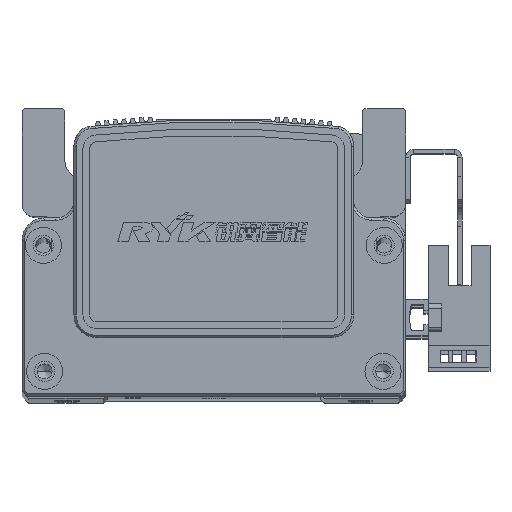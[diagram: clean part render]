
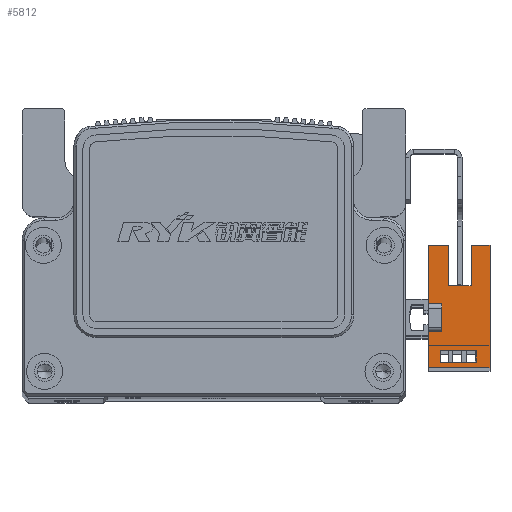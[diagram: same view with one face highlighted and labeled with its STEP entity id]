
A CAD part, top view. The second image highlights one B-rep face of the part: STEP entity #5812.
In plain terms, the highlighted planar face has unit normal (0, 0, 1) as drawn and (1, 0, 0) by its records, which use the part's own axes.
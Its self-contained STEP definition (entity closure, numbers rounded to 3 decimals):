
#5812 = ADVANCED_FACE ( 'NONE', ( #44824, #44791 ), #16003, .T. ) ;
#7566 = CARTESIAN_POINT ( 'NONE',  ( 3.2, 16.1, -10.7 ) ) ;
#7572 = DIRECTION ( 'NONE',  ( 0., 0., 1. ) ) ;
#7694 = DIRECTION ( 'NONE',  ( 0., 1., 0. ) ) ;
#7706 = DIRECTION ( 'NONE',  ( 0., 1., 0. ) ) ;
#7716 = CARTESIAN_POINT ( 'NONE',  ( 3.2, 16.1, 3. ) ) ;
#7731 = CARTESIAN_POINT ( 'NONE',  ( 3.2, 16.1, -7.7 ) ) ;
#7765 = CARTESIAN_POINT ( 'NONE',  ( 3.2, 16.1, 3. ) ) ;
#7781 = DIRECTION ( 'NONE',  ( 0., 0., 1. ) ) ;
#7782 = DIRECTION ( 'NONE',  ( 0., 1., 0. ) ) ;
#7783 = CARTESIAN_POINT ( 'NONE',  ( 3.2, 7.1, -6.5 ) ) ;
#7792 = CARTESIAN_POINT ( 'NONE',  ( 3.2, 16.1, -10.7 ) ) ;
#7798 = DIRECTION ( 'NONE',  ( 0., 1., 0. ) ) ;
#7804 = DIRECTION ( 'NONE',  ( 0., -1., 0. ) ) ;
#7809 = CARTESIAN_POINT ( 'NONE',  ( 3.2, 16.1, 0.3 ) ) ;
#7814 = CARTESIAN_POINT ( 'NONE',  ( 3.2, -9.83, -10.7 ) ) ;
#7828 = CARTESIAN_POINT ( 'NONE',  ( 3.2, 25.1, -6.5 ) ) ;
#7831 = DIRECTION ( 'NONE',  ( 0., -1., 0. ) ) ;
#7833 = DIRECTION ( 'NONE',  ( 0., 0., -1. ) ) ;
#7849 = CARTESIAN_POINT ( 'NONE',  ( 3.2, -7.33, -10.7 ) ) ;
#7851 = DIRECTION ( 'NONE',  ( 0., 0., 1. ) ) ;
#7866 = DIRECTION ( 'NONE',  ( 0., 1., 0. ) ) ;
#7873 = CARTESIAN_POINT ( 'NONE',  ( 3.2, -11.1, 3. ) ) ;
#7874 = DIRECTION ( 'NONE',  ( 0., 0., 1. ) ) ;
#7893 = CARTESIAN_POINT ( 'NONE',  ( 3.2, 0., 0. ) ) ;
#7900 = DIRECTION ( 'NONE',  ( 0., 1., 0. ) ) ;
#7903 = CARTESIAN_POINT ( 'NONE',  ( 3.2, 25.1, -1.5 ) ) ;
#7912 = DIRECTION ( 'NONE',  ( 0., 0., 1. ) ) ;
#7932 = CARTESIAN_POINT ( 'NONE',  ( 3.2, 16.1, -10.7 ) ) ;
#10151 = DIRECTION ( 'NONE',  ( 0., 0., 1. ) ) ;
#10153 = CARTESIAN_POINT ( 'NONE',  ( 3.2, -3.1, 3. ) ) ;
#10168 = CARTESIAN_POINT ( 'NONE',  ( 3.2, 3.1, 3. ) ) ;
#10182 = DIRECTION ( 'NONE',  ( 0., 0., -1. ) ) ;
#10513 = CARTESIAN_POINT ( 'NONE',  ( 3.2, -3.1, 3. ) ) ;
#10539 = CARTESIAN_POINT ( 'NONE',  ( 3.2, 3.1, 3. ) ) ;
#10578 = CARTESIAN_POINT ( 'NONE',  ( 3.2, 16.1, -6.5 ) ) ;
#10580 = CARTESIAN_POINT ( 'NONE',  ( 3.2, -11.1, 3. ) ) ;
#10588 = CARTESIAN_POINT ( 'NONE',  ( 3.2, 16.1, 3. ) ) ;
#10594 = CARTESIAN_POINT ( 'NONE',  ( 3.2, 16.1, -10.7 ) ) ;
#10643 = CARTESIAN_POINT ( 'NONE',  ( 3.2, 16.1, -1.5 ) ) ;
#10648 = CARTESIAN_POINT ( 'NONE',  ( 3.2, -11.1, -10.7 ) ) ;
#10667 = CARTESIAN_POINT ( 'NONE',  ( 3.2, -9.83, 0.3 ) ) ;
#10671 = CARTESIAN_POINT ( 'NONE',  ( 3.2, -7.33, -7.7 ) ) ;
#10689 = CARTESIAN_POINT ( 'NONE',  ( 3.2, 7.1, -1.5 ) ) ;
#10716 = CARTESIAN_POINT ( 'NONE',  ( 3.2, -7.33, 0.3 ) ) ;
#10720 = CARTESIAN_POINT ( 'NONE',  ( 3.2, 3.1, 0. ) ) ;
#10726 = CARTESIAN_POINT ( 'NONE',  ( 3.2, -9.83, -7.7 ) ) ;
#10730 = CARTESIAN_POINT ( 'NONE',  ( 3.2, -3.1, 0. ) ) ;
#10759 = CARTESIAN_POINT ( 'NONE',  ( 3.2, 7.1, -6.5 ) ) ;
#14133 = EDGE_CURVE ( 'NONE', #37914, #37710, #24729, .T. ) ;
#14134 = EDGE_CURVE ( 'NONE', #37706, #37928, #24770, .T. ) ;
#14176 = EDGE_CURVE ( 'NONE', #37793, #37771, #24817, .T. ) ;
#14206 = EDGE_CURVE ( 'NONE', #37839, #37706, #24856, .T. ) ;
#14221 = EDGE_CURVE ( 'NONE', #37951, #37949, #24892, .T. ) ;
#14243 = EDGE_CURVE ( 'NONE', #37710, #37875, #24933, .T. ) ;
#14253 = EDGE_CURVE ( 'NONE', #38013, #37884, #24941, .T. ) ;
#14256 = EDGE_CURVE ( 'NONE', #37895, #37793, #24950, .T. ) ;
#14257 = EDGE_CURVE ( 'NONE', #37999, #37931, #24952, .T. ) ;
#14262 = EDGE_CURVE ( 'NONE', #37931, #37951, #25003, .T. ) ;
#14264 = EDGE_CURVE ( 'NONE', #37771, #38013, #25018, .T. ) ;
#14280 = EDGE_CURVE ( 'NONE', #37949, #37999, #24988, .T. ) ;
#14297 = EDGE_CURVE ( 'NONE', #37928, #37914, #25055, .T. ) ;
#14298 = EDGE_CURVE ( 'NONE', #37884, #37869, #25090, .T. ) ;
#14301 = EDGE_CURVE ( 'NONE', #37895, #37839, #25059, .T. ) ;
#14312 = EDGE_CURVE ( 'NONE', #37869, #37875, #25061, .T. ) ;
#16003 = PLANE ( 'NONE',  #22616 ) ;
#16004 = DIRECTION ( 'NONE',  ( 1., 0., 0. ) ) ;
#16005 = DIRECTION ( 'NONE',  ( 0., 1., 0. ) ) ;
#16048 = CARTESIAN_POINT ( 'NONE',  ( 3.2, 16.1, -10.7 ) ) ;
#22616 = AXIS2_PLACEMENT_3D ( 'NONE', #16048, #16004, #16005 ) ;
#24729 = LINE ( 'NONE', #10168, #24753 ) ;
#24753 = VECTOR ( 'NONE', #10151, 1000. ) ;
#24755 = VECTOR ( 'NONE', #10182, 1000. ) ;
#24770 = LINE ( 'NONE', #10153, #24755 ) ;
#24789 = VECTOR ( 'NONE', #7572, 1000. ) ;
#24817 = LINE ( 'NONE', #7566, #24789 ) ;
#24856 = LINE ( 'NONE', #7716, #24900 ) ;
#24892 = LINE ( 'NONE', #7731, #24894 ) ;
#24894 = VECTOR ( 'NONE', #7706, 1000. ) ;
#24900 = VECTOR ( 'NONE', #7694, 1000. ) ;
#24933 = LINE ( 'NONE', #7765, #24939 ) ;
#24939 = VECTOR ( 'NONE', #7782, 1000. ) ;
#24941 = LINE ( 'NONE', #7783, #24942 ) ;
#24942 = VECTOR ( 'NONE', #7781, 1000. ) ;
#24950 = LINE ( 'NONE', #7792, #24951 ) ;
#24951 = VECTOR ( 'NONE', #7798, 1000. ) ;
#24952 = LINE ( 'NONE', #7809, #24965 ) ;
#24965 = VECTOR ( 'NONE', #7804, 1000. ) ;
#24988 = LINE ( 'NONE', #7849, #24990 ) ;
#24990 = VECTOR ( 'NONE', #7851, 1000. ) ;
#24991 = VECTOR ( 'NONE', #7831, 1000. ) ;
#24993 = VECTOR ( 'NONE', #7833, 1000. ) ;
#25003 = LINE ( 'NONE', #7814, #24993 ) ;
#25018 = LINE ( 'NONE', #7828, #24991 ) ;
#25033 = VECTOR ( 'NONE', #7900, 1000. ) ;
#25055 = LINE ( 'NONE', #7893, #25084 ) ;
#25059 = LINE ( 'NONE', #7873, #25071 ) ;
#25061 = LINE ( 'NONE', #7932, #25085 ) ;
#25071 = VECTOR ( 'NONE', #7874, 1000. ) ;
#25084 = VECTOR ( 'NONE', #7866, 1000. ) ;
#25085 = VECTOR ( 'NONE', #7912, 1000. ) ;
#25090 = LINE ( 'NONE', #7903, #25033 ) ;
#29466 = EDGE_LOOP ( 'NONE', ( #41013, #41165, #41125, #41021, #41111, #41102, #41050, #41136, #41233, #41090, #40991, #41044 ) ) ;
#29476 = EDGE_LOOP ( 'NONE', ( #41244, #41051, #41131, #41241 ) ) ;
#37706 = VERTEX_POINT ( 'NONE', #10513 ) ;
#37710 = VERTEX_POINT ( 'NONE', #10539 ) ;
#37771 = VERTEX_POINT ( 'NONE', #10578 ) ;
#37793 = VERTEX_POINT ( 'NONE', #10594 ) ;
#37839 = VERTEX_POINT ( 'NONE', #10580 ) ;
#37869 = VERTEX_POINT ( 'NONE', #10643 ) ;
#37875 = VERTEX_POINT ( 'NONE', #10588 ) ;
#37884 = VERTEX_POINT ( 'NONE', #10689 ) ;
#37895 = VERTEX_POINT ( 'NONE', #10648 ) ;
#37914 = VERTEX_POINT ( 'NONE', #10720 ) ;
#37928 = VERTEX_POINT ( 'NONE', #10730 ) ;
#37931 = VERTEX_POINT ( 'NONE', #10667 ) ;
#37949 = VERTEX_POINT ( 'NONE', #10671 ) ;
#37951 = VERTEX_POINT ( 'NONE', #10726 ) ;
#37999 = VERTEX_POINT ( 'NONE', #10716 ) ;
#38013 = VERTEX_POINT ( 'NONE', #10759 ) ;
#40991 = ORIENTED_EDGE ( 'NONE', *, *, #14256, .T. ) ;
#41013 = ORIENTED_EDGE ( 'NONE', *, *, #14264, .T. ) ;
#41021 = ORIENTED_EDGE ( 'NONE', *, *, #14312, .T. ) ;
#41044 = ORIENTED_EDGE ( 'NONE', *, *, #14176, .T. ) ;
#41050 = ORIENTED_EDGE ( 'NONE', *, *, #14297, .F. ) ;
#41051 = ORIENTED_EDGE ( 'NONE', *, *, #14280, .F. ) ;
#41090 = ORIENTED_EDGE ( 'NONE', *, *, #14301, .F. ) ;
#41102 = ORIENTED_EDGE ( 'NONE', *, *, #14133, .F. ) ;
#41111 = ORIENTED_EDGE ( 'NONE', *, *, #14243, .F. ) ;
#41125 = ORIENTED_EDGE ( 'NONE', *, *, #14298, .T. ) ;
#41131 = ORIENTED_EDGE ( 'NONE', *, *, #14221, .F. ) ;
#41136 = ORIENTED_EDGE ( 'NONE', *, *, #14134, .F. ) ;
#41165 = ORIENTED_EDGE ( 'NONE', *, *, #14253, .T. ) ;
#41233 = ORIENTED_EDGE ( 'NONE', *, *, #14206, .F. ) ;
#41241 = ORIENTED_EDGE ( 'NONE', *, *, #14262, .F. ) ;
#41244 = ORIENTED_EDGE ( 'NONE', *, *, #14257, .F. ) ;
#44791 = FACE_BOUND ( 'NONE', #29476, .T. ) ;
#44824 = FACE_OUTER_BOUND ( 'NONE', #29466, .T. ) ;
